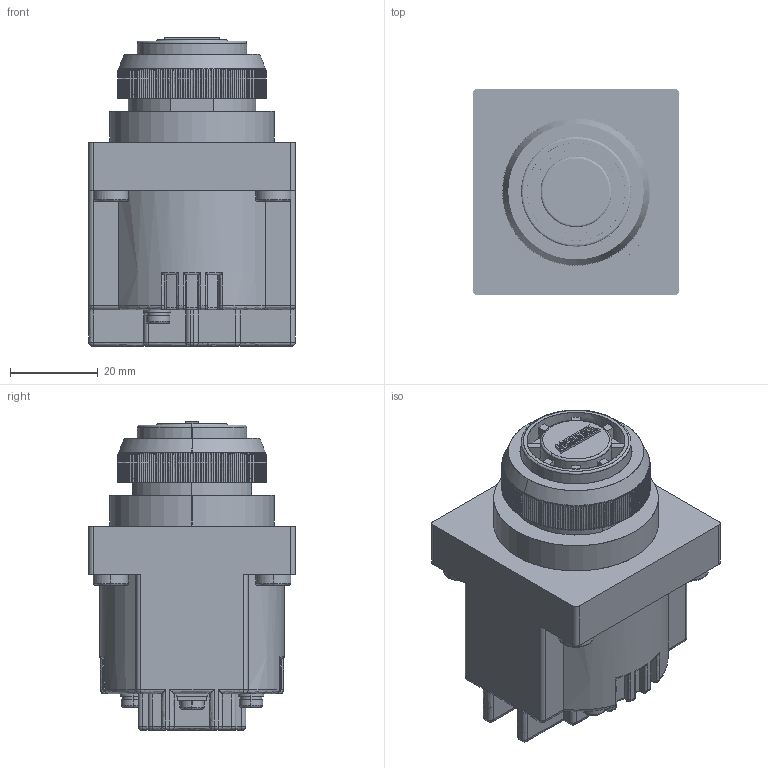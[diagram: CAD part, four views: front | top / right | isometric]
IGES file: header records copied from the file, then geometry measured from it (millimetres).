
Start section: SolidWorks IGES file using analytic representation for surfaces
Global section: file name: D:\X - Arquivos\PROEX\Empresas\P11 - METALTEX\01 - Produtos\IGES\6ª remessa\1ª etapa\TB6-324.IGS; native system: SolidWorks 2012; preprocessor: SolidWorks 2012; author: Usuario; date: 190125.145313; units: millimetre
Bounding box: 47 x 47 x 70.3 mm (x, y, z)
Surface area: 18102.7 mm2 (no closed solid volume)
Topology: 0 solids, 0 shells, 990 faces, 11555 edges, 11535 vertices
Faces by surface type: revolution 606, bspline 384
